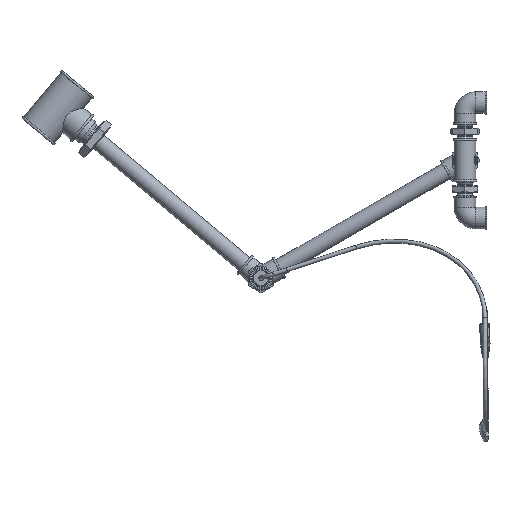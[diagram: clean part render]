
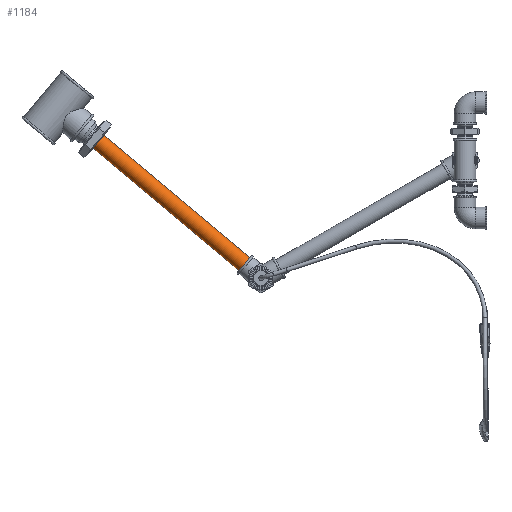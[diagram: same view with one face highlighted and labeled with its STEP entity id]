
A CAD part, left-side view. The second image highlights one B-rep face of the part: STEP entity #1184.
In plain terms, the highlighted cylindrical face has radius 10.477 mm (diameter 20.955 mm), a full revolution.
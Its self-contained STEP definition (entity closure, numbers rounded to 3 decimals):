
#1184 = ADVANCED_FACE( '', ( #2326, #2327 ), #2328, .T. );
#2326 = FACE_OUTER_BOUND( '', #3508, .T. );
#2327 = FACE_OUTER_BOUND( '', #3509, .T. );
#2328 = CYLINDRICAL_SURFACE( '', #3510, 10.478 );
#3508 = EDGE_LOOP( '', ( #5685 ) );
#3509 = EDGE_LOOP( '', ( #5686 ) );
#3510 = AXIS2_PLACEMENT_3D( '', #5687, #5688, #5689 );
#5685 = ORIENTED_EDGE( '', *, *, #7059, .F. );
#5686 = ORIENTED_EDGE( '', *, *, #7060, .T. );
#5687 = CARTESIAN_POINT( '', ( 250., 0., 0. ) );
#5688 = DIRECTION( '', ( -1., 0., 0. ) );
#5689 = DIRECTION( '', ( 0., 0., -1. ) );
#7059 = EDGE_CURVE( '', #8397, #8397, #8398, .T. );
#7060 = EDGE_CURVE( '', #8399, #8399, #8400, .T. );
#8397 = VERTEX_POINT( '', #11051 );
#8398 = CIRCLE( '', #11052, 10.478 );
#8399 = VERTEX_POINT( '', #11053 );
#8400 = CIRCLE( '', #11054, 10.478 );
#11051 = CARTESIAN_POINT( '', ( 248.838, 0., -10.478 ) );
#11052 = AXIS2_PLACEMENT_3D( '', #12129, #12130, #12131 );
#11053 = CARTESIAN_POINT( '', ( 1.162, 0., -10.478 ) );
#11054 = AXIS2_PLACEMENT_3D( '', #12132, #12133, #12134 );
#12129 = CARTESIAN_POINT( '', ( 248.838, 0., 0. ) );
#12130 = DIRECTION( '', ( 1., 0., 0. ) );
#12131 = DIRECTION( '', ( 0., 0., -1. ) );
#12132 = CARTESIAN_POINT( '', ( 1.162, 0., 0. ) );
#12133 = DIRECTION( '', ( 1., 0., 0. ) );
#12134 = DIRECTION( '', ( 0., 0., -1. ) );
